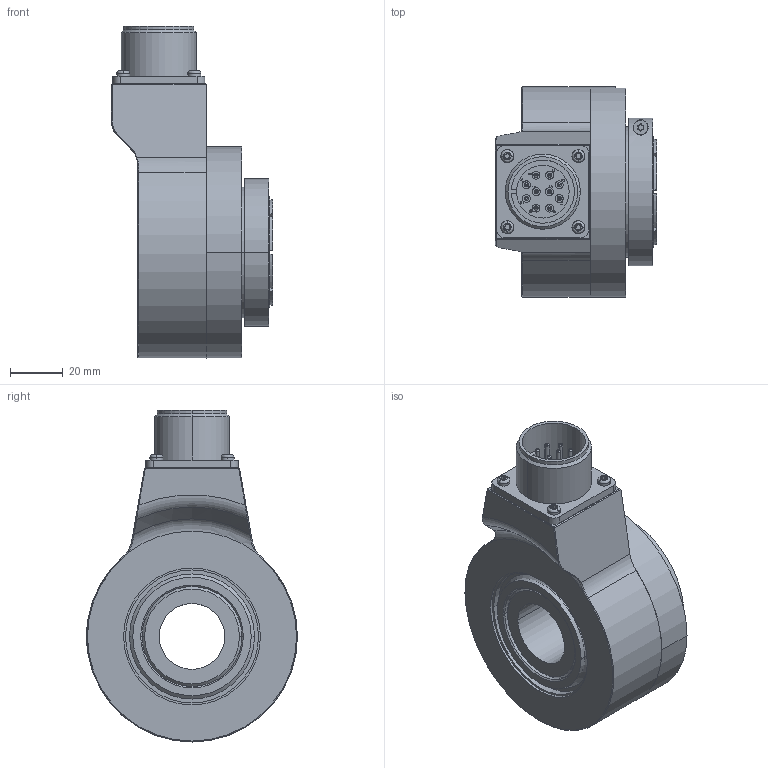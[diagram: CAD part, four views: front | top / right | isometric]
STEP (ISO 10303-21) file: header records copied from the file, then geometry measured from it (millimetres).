
FILE_DESCRIPTION (( 'STEP AP203' ), '1' );
FILE_NAME ('K80I.OXX.XXXXX.XH20825.6XRCE.step', '2025-12-09T09:37:34', ( '' ), ( '' ), 'SwSTEP 2.0', 'SolidWorks 2021', '' );
FILE_SCHEMA (( 'CONFIG_CONTROL_DESIGN' ));
Length unit declared in the file: millimetre
Products named in the file (1): K80I.OXX.XXXXX.XH20825.6XRCE
Bounding box: 61.2 x 80.15 x 126.08 mm (x, y, z)
Volume: 238818.6 mm3; surface area: 77729.6 mm2
Topology: 7 solids, 7 shells, 639 faces, 1629 edges, 1055 vertices
Faces by surface type: plane 268, cylinder 245, bspline 55, cone 39, torus 32
Entity records: 23900 total; most frequent: CARTESIAN_POINT 8335, ORIENTED_EDGE 3242, DIRECTION 3221, EDGE_CURVE 1621, AXIS2_PLACEMENT_3D 1199, VERTEX_POINT 1055, VECTOR 823, LINE 823
